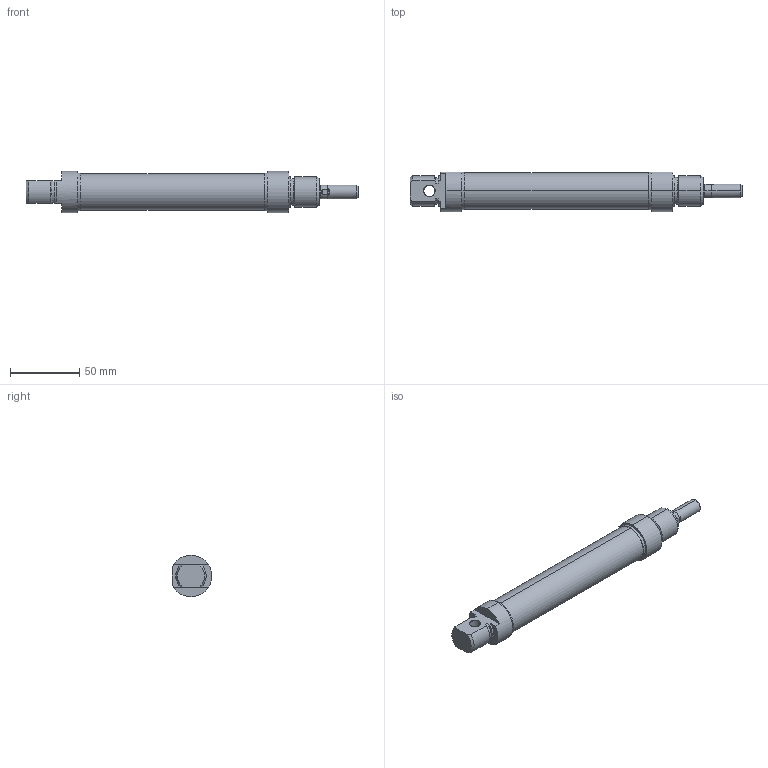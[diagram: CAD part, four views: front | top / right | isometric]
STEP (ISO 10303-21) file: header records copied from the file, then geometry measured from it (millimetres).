
FILE_DESCRIPTION (( 'STEP AP214' ), '1' );
FILE_NAME ('23_00823.STEP', '2017-01-04T07:34:44', ( '' ), ( '' ), 'SwSTEP 2.0', 'SolidWorks 2016', '' );
FILE_SCHEMA (( 'AUTOMOTIVE_DESIGN' ));
Length unit declared in the file: millimetre
Products named in the file (1): 23_00823
Bounding box: 240 x 28.5 x 30 mm (x, y, z)
Volume: 111037.3 mm3; surface area: 23291.4 mm2
Topology: 4 solids, 4 shells, 109 faces, 259 edges, 165 vertices
Faces by surface type: cylinder 45, plane 36, cone 26, torus 2
Entity records: 3334 total; most frequent: CARTESIAN_POINT 684, DIRECTION 579, ORIENTED_EDGE 514, EDGE_CURVE 257, AXIS2_PLACEMENT_3D 232, VERTEX_POINT 165, CIRCLE 122, EDGE_LOOP 120
